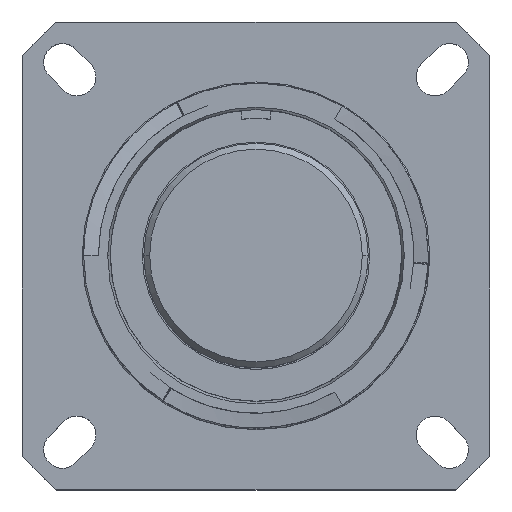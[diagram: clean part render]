
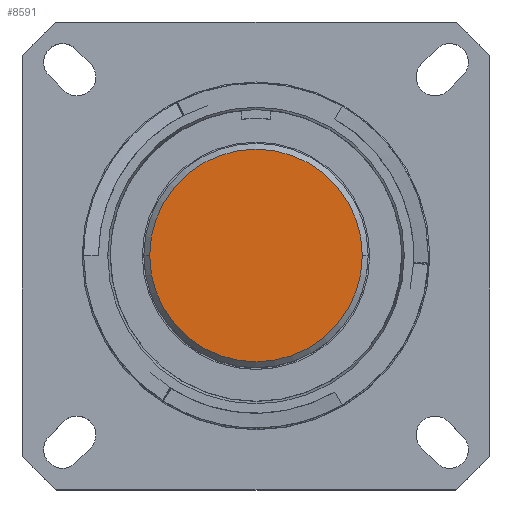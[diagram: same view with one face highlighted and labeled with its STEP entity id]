
A CAD part, top view. The second image highlights one B-rep face of the part: STEP entity #8591.
In plain terms, the highlighted planar face has unit normal (0, 0, 1).
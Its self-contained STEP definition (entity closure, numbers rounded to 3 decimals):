
#151 = AXIS2_PLACEMENT_3D ( 'NONE', #1350, #3335, #4122 ) ;
#508 = DIRECTION ( 'NONE',  ( 0., 0., 1. ) ) ;
#692 = FACE_OUTER_BOUND ( 'NONE', #4947, .T. ) ;
#885 = CARTESIAN_POINT ( 'NONE',  ( 9.208, 0., -0.457 ) ) ;
#1350 = CARTESIAN_POINT ( 'NONE',  ( 0., 0., -0.457 ) ) ;
#2261 = CARTESIAN_POINT ( 'NONE',  ( 0., 0., -0.457 ) ) ;
#2882 = EDGE_CURVE ( 'NONE', #4285, #4127, #4132, .T. ) ;
#3335 = DIRECTION ( 'NONE',  ( 0., 0., 1. ) ) ;
#4027 = AXIS2_PLACEMENT_3D ( 'NONE', #2261, #4385, #5066 ) ;
#4122 = DIRECTION ( 'NONE',  ( 1., 0., 0. ) ) ;
#4127 = VERTEX_POINT ( 'NONE', #885 ) ;
#4132 = CIRCLE ( 'NONE', #151, 9.208 ) ;
#4214 = ORIENTED_EDGE ( 'NONE', *, *, #4231, .T. ) ;
#4231 = EDGE_CURVE ( 'NONE', #4127, #4285, #7680, .T. ) ;
#4285 = VERTEX_POINT ( 'NONE', #7512 ) ;
#4385 = DIRECTION ( 'NONE',  ( 0., 0., 1. ) ) ;
#4834 = ORIENTED_EDGE ( 'NONE', *, *, #2882, .T. ) ;
#4947 = EDGE_LOOP ( 'NONE', ( #4834, #4214 ) ) ;
#5066 = DIRECTION ( 'NONE',  ( 1., 0., 0. ) ) ;
#5701 = PLANE ( 'NONE',  #4027 ) ;
#7512 = CARTESIAN_POINT ( 'NONE',  ( -9.208, 0., -0.457 ) ) ;
#7680 = CIRCLE ( 'NONE', #7981, 9.208 ) ;
#7981 = AXIS2_PLACEMENT_3D ( 'NONE', #8163, #508, #8892 ) ;
#8163 = CARTESIAN_POINT ( 'NONE',  ( 0., 0., -0.457 ) ) ;
#8591 = ADVANCED_FACE ( 'NONE', ( #692 ), #5701, .T. ) ;
#8892 = DIRECTION ( 'NONE',  ( 1., 0., 0. ) ) ;
